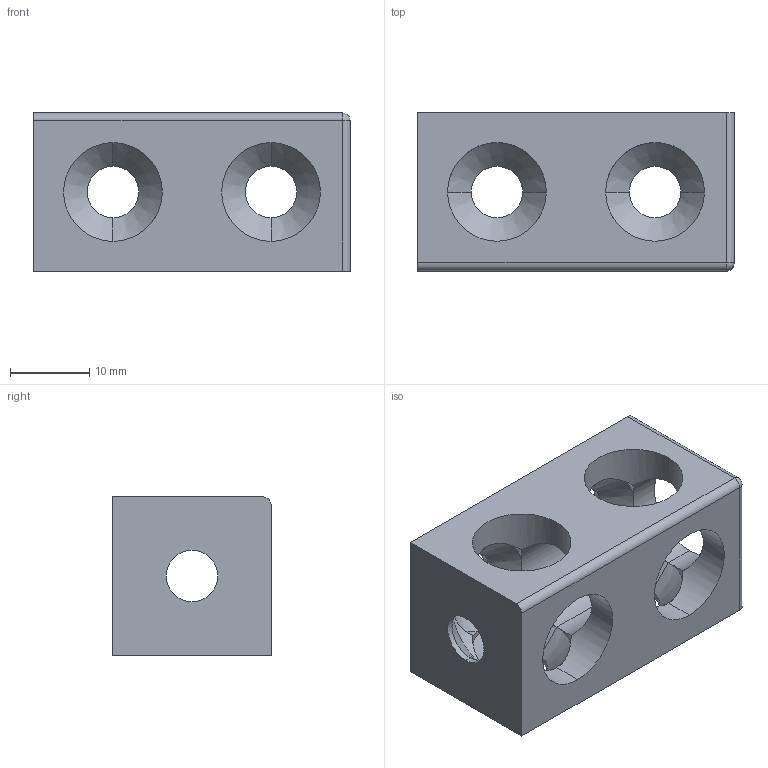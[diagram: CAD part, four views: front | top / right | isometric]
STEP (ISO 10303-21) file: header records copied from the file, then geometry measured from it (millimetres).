
FILE_DESCRIPTION (( 'STEP AP214' ), '1' );
FILE_NAME ('K2040-3.STEP', '2023-04-06T10:17:15', ( 'ﾌﾊﾌ' ), ( '' ), 'SwSTEP 2.0', 'SolidWorks 2022', '' );
FILE_SCHEMA (( 'AUTOMOTIVE_DESIGN' ));
Length unit declared in the file: millimetre
Products named in the file (1): K2040-3
Bounding box: 40 x 20 x 20 mm (x, y, z)
Volume: 7859 mm3; surface area: 5219.5 mm2
Topology: 1 solids, 1 shells, 62 faces, 149 edges, 80 vertices
Faces by surface type: cylinder 45, cone 10, plane 6, sphere 1
Entity records: 1810 total; most frequent: CARTESIAN_POINT 426, ORIENTED_EDGE 296, DIRECTION 285, EDGE_CURVE 148, AXIS2_PLACEMENT_3D 119, VERTEX_POINT 80, EDGE_LOOP 72, FACE_OUTER_BOUND 62
